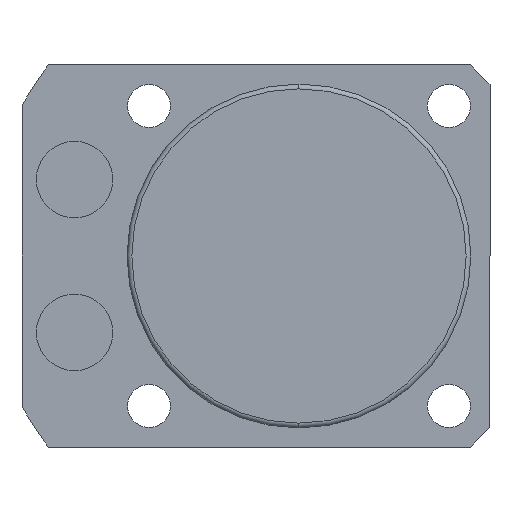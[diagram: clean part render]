
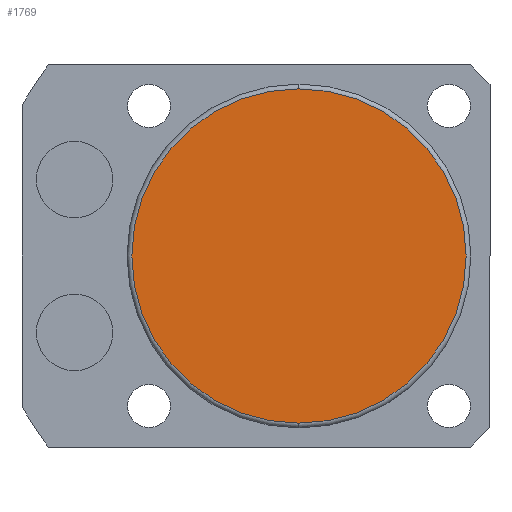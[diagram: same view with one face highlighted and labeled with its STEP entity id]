
A CAD part, front view. The second image highlights one B-rep face of the part: STEP entity #1769.
In plain terms, the highlighted planar face has unit normal (0, -1, 0).
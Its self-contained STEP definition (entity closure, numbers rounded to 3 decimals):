
#147 = CARTESIAN_POINT ( 'NONE',  ( 0., -130.5, 0. ) ) ;
#198 = CARTESIAN_POINT ( 'NONE',  ( 0., -130.5, 0. ) ) ;
#217 = DIRECTION ( 'NONE',  ( 0., -1., 0. ) ) ;
#358 = VERTEX_POINT ( 'NONE', #1146 ) ;
#372 = DIRECTION ( 'NONE',  ( 0., 0., -1. ) ) ;
#409 = EDGE_CURVE ( 'NONE', #358, #1574, #896, .T. ) ;
#558 = AXIS2_PLACEMENT_3D ( 'NONE', #1531, #947, #372 ) ;
#681 = EDGE_CURVE ( 'NONE', #1574, #358, #2340, .T. ) ;
#790 = AXIS2_PLACEMENT_3D ( 'NONE', #198, #217, #1913 ) ;
#896 = CIRCLE ( 'NONE', #790, 17.5 ) ;
#947 = DIRECTION ( 'NONE',  ( 0., -1., 0. ) ) ;
#1146 = CARTESIAN_POINT ( 'NONE',  ( 0., -130.5, 17.5 ) ) ;
#1170 = PLANE ( 'NONE',  #558 ) ;
#1470 = DIRECTION ( 'NONE',  ( 0., -1., 0. ) ) ;
#1531 = CARTESIAN_POINT ( 'NONE',  ( 0., -130.5, 0. ) ) ;
#1574 = VERTEX_POINT ( 'NONE', #2358 ) ;
#1766 = AXIS2_PLACEMENT_3D ( 'NONE', #147, #1470, #2048 ) ;
#1769 = ADVANCED_FACE ( 'NONE', ( #1986 ), #1170, .T. ) ;
#1864 = EDGE_LOOP ( 'NONE', ( #2338, #1902 ) ) ;
#1902 = ORIENTED_EDGE ( 'NONE', *, *, #409, .T. ) ;
#1913 = DIRECTION ( 'NONE',  ( 0., 0., -1. ) ) ;
#1986 = FACE_OUTER_BOUND ( 'NONE', #1864, .T. ) ;
#2048 = DIRECTION ( 'NONE',  ( 0., 0., -1. ) ) ;
#2338 = ORIENTED_EDGE ( 'NONE', *, *, #681, .T. ) ;
#2340 = CIRCLE ( 'NONE', #1766, 17.5 ) ;
#2358 = CARTESIAN_POINT ( 'NONE',  ( 0., -130.5, -17.5 ) ) ;
